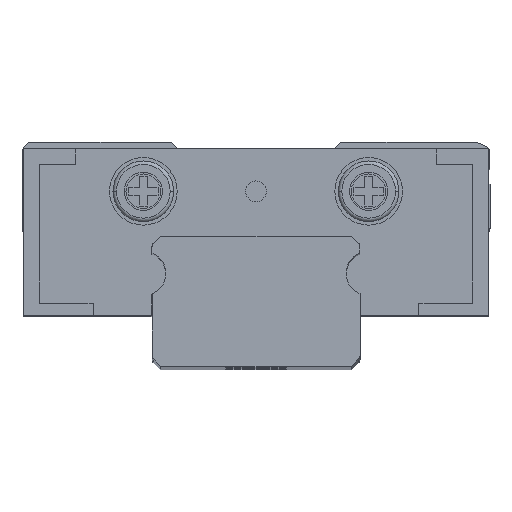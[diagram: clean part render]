
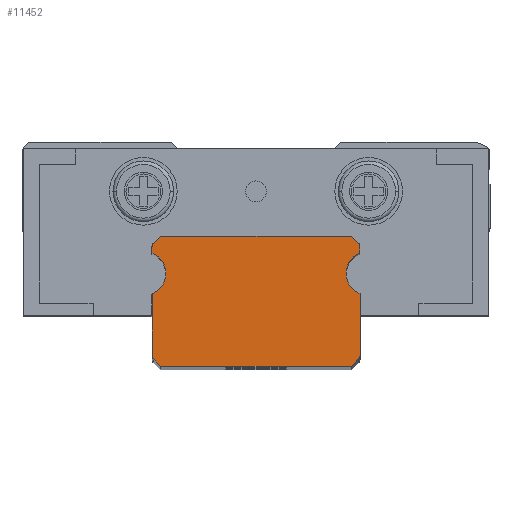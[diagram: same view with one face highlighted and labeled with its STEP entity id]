
A CAD part, top view. The second image highlights one B-rep face of the part: STEP entity #11452.
In plain terms, the highlighted planar face has unit normal (0, 0, 1).
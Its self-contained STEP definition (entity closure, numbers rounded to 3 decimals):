
#16 = DIRECTION ( 'NONE',  ( 0., 1., 0. ) ) ;
#28 = CARTESIAN_POINT ( 'NONE',  ( -6., 6.516, 125. ) ) ;
#76 = VERTEX_POINT ( 'NONE', #142 ) ;
#142 = CARTESIAN_POINT ( 'NONE',  ( 6., 6.516, 125. ) ) ;
#297 = CARTESIAN_POINT ( 'NONE',  ( 5.5, 0., 125. ) ) ;
#335 = CARTESIAN_POINT ( 'NONE',  ( 6., 0.624, 125. ) ) ;
#440 = CARTESIAN_POINT ( 'NONE',  ( 6., 4.184, 125. ) ) ;
#506 = CIRCLE ( 'NONE', #4376, 1.25 ) ;
#549 = LINE ( 'NONE', #704, #3685 ) ;
#651 = EDGE_CURVE ( 'NONE', #8385, #3253, #1044, .T. ) ;
#704 = CARTESIAN_POINT ( 'NONE',  ( -6., 6.876, 125. ) ) ;
#760 = DIRECTION ( 'NONE',  ( 0., 0., 1. ) ) ;
#792 = ORIENTED_EDGE ( 'NONE', *, *, #6316, .F. ) ;
#1009 = LINE ( 'NONE', #9980, #4890 ) ;
#1044 = LINE ( 'NONE', #5384, #4025 ) ;
#1287 = CARTESIAN_POINT ( 'NONE',  ( 5.5, 7.5, 125. ) ) ;
#1381 = CARTESIAN_POINT ( 'NONE',  ( -6., 4.184, 125. ) ) ;
#1427 = CARTESIAN_POINT ( 'NONE',  ( 6., 6.516, 125. ) ) ;
#1523 = ORIENTED_EDGE ( 'NONE', *, *, #7706, .T. ) ;
#1582 = VECTOR ( 'NONE', #4456, 1000. ) ;
#1739 = ORIENTED_EDGE ( 'NONE', *, *, #651, .T. ) ;
#2018 = EDGE_CURVE ( 'NONE', #5233, #3962, #10681, .T. ) ;
#2036 = PLANE ( 'NONE',  #8665 ) ;
#2195 = ORIENTED_EDGE ( 'NONE', *, *, #2216, .T. ) ;
#2216 = EDGE_CURVE ( 'NONE', #3223, #3416, #2346, .T. ) ;
#2344 = DIRECTION ( 'NONE',  ( 0., 0., 1. ) ) ;
#2346 = CIRCLE ( 'NONE', #12033, 0.3 ) ;
#2350 = DIRECTION ( 'NONE',  ( -1., 0., 0. ) ) ;
#2393 = CIRCLE ( 'NONE', #7265, 1.25 ) ;
#2399 = DIRECTION ( 'NONE',  ( 0., 0., 1. ) ) ;
#2405 = ORIENTED_EDGE ( 'NONE', *, *, #11754, .T. ) ;
#2653 = VERTEX_POINT ( 'NONE', #10883 ) ;
#2659 = CARTESIAN_POINT ( 'NONE',  ( -5.7, 0.624, 125. ) ) ;
#2996 = VERTEX_POINT ( 'NONE', #9767 ) ;
#3030 = LINE ( 'NONE', #1287, #10760 ) ;
#3058 = ORIENTED_EDGE ( 'NONE', *, *, #5962, .T. ) ;
#3122 = ORIENTED_EDGE ( 'NONE', *, *, #3310, .T. ) ;
#3219 = CIRCLE ( 'NONE', #9869, 0.3 ) ;
#3223 = VERTEX_POINT ( 'NONE', #3390 ) ;
#3235 = VERTEX_POINT ( 'NONE', #5183 ) ;
#3244 = EDGE_CURVE ( 'NONE', #3713, #5233, #1009, .T. ) ;
#3253 = VERTEX_POINT ( 'NONE', #5299 ) ;
#3310 = EDGE_CURVE ( 'NONE', #76, #3235, #5987, .T. ) ;
#3390 = CARTESIAN_POINT ( 'NONE',  ( -5.912, 7.088, 125. ) ) ;
#3416 = VERTEX_POINT ( 'NONE', #7259 ) ;
#3685 = VECTOR ( 'NONE', #9237, 1000. ) ;
#3713 = VERTEX_POINT ( 'NONE', #297 ) ;
#3796 = FACE_OUTER_BOUND ( 'NONE', #7713, .T. ) ;
#3962 = VERTEX_POINT ( 'NONE', #335 ) ;
#4025 = VECTOR ( 'NONE', #10976, 1000. ) ;
#4029 = LINE ( 'NONE', #5156, #4774 ) ;
#4091 = EDGE_CURVE ( 'NONE', #3416, #10551, #549, .T. ) ;
#4156 = DIRECTION ( 'NONE',  ( -0.707, 0.707, 0. ) ) ;
#4236 = ORIENTED_EDGE ( 'NONE', *, *, #4091, .T. ) ;
#4376 = AXIS2_PLACEMENT_3D ( 'NONE', #7857, #11634, #10828 ) ;
#4456 = DIRECTION ( 'NONE',  ( -0.707, -0.707, 0. ) ) ;
#4774 = VECTOR ( 'NONE', #4156, 1000. ) ;
#4890 = VECTOR ( 'NONE', #5132, 1000. ) ;
#5035 = ORIENTED_EDGE ( 'NONE', *, *, #8557, .F. ) ;
#5036 = VERTEX_POINT ( 'NONE', #9597 ) ;
#5132 = DIRECTION ( 'NONE',  ( 0.707, 0.707, 0. ) ) ;
#5133 = ORIENTED_EDGE ( 'NONE', *, *, #8745, .T. ) ;
#5156 = CARTESIAN_POINT ( 'NONE',  ( 5.912, 7.088, 125. ) ) ;
#5183 = CARTESIAN_POINT ( 'NONE',  ( 6., 6.876, 125. ) ) ;
#5233 = VERTEX_POINT ( 'NONE', #9724 ) ;
#5241 = VECTOR ( 'NONE', #16, 1000. ) ;
#5299 = CARTESIAN_POINT ( 'NONE',  ( -5.5, 0., 125. ) ) ;
#5303 = CARTESIAN_POINT ( 'NONE',  ( -5.912, 0.412, 125. ) ) ;
#5351 = VERTEX_POINT ( 'NONE', #5905 ) ;
#5384 = CARTESIAN_POINT ( 'NONE',  ( -5.912, 0.412, 125. ) ) ;
#5837 = CARTESIAN_POINT ( 'NONE',  ( -5.7, 6.876, 125. ) ) ;
#5869 = ORIENTED_EDGE ( 'NONE', *, *, #3244, .T. ) ;
#5873 = CIRCLE ( 'NONE', #8108, 0.3 ) ;
#5883 = LINE ( 'NONE', #10225, #1582 ) ;
#5905 = CARTESIAN_POINT ( 'NONE',  ( 5.912, 7.088, 125. ) ) ;
#5962 = EDGE_CURVE ( 'NONE', #3235, #5351, #5873, .T. ) ;
#5987 = LINE ( 'NONE', #1427, #9075 ) ;
#6027 = AXIS2_PLACEMENT_3D ( 'NONE', #8106, #2399, #9033 ) ;
#6149 = EDGE_CURVE ( 'NONE', #7892, #7860, #506, .T. ) ;
#6152 = LINE ( 'NONE', #8519, #5241 ) ;
#6193 = ORIENTED_EDGE ( 'NONE', *, *, #6149, .F. ) ;
#6314 = CARTESIAN_POINT ( 'NONE',  ( -6.45, 5.35, 125. ) ) ;
#6316 = EDGE_CURVE ( 'NONE', #7565, #10551, #7378, .T. ) ;
#6467 = CARTESIAN_POINT ( 'NONE',  ( 6.45, 5.35, 125. ) ) ;
#6480 = CARTESIAN_POINT ( 'NONE',  ( 5.2, 5.35, 125. ) ) ;
#6609 = DIRECTION ( 'NONE',  ( 1., 0., 0. ) ) ;
#6762 = CARTESIAN_POINT ( 'NONE',  ( 5.7, 6.876, 125. ) ) ;
#6788 = DIRECTION ( 'NONE',  ( 0., 0., 1. ) ) ;
#6849 = DIRECTION ( 'NONE',  ( 1., 0., 0. ) ) ;
#7228 = CARTESIAN_POINT ( 'NONE',  ( -5.5, 0., 125. ) ) ;
#7259 = CARTESIAN_POINT ( 'NONE',  ( -6., 6.876, 125. ) ) ;
#7265 = AXIS2_PLACEMENT_3D ( 'NONE', #6467, #760, #8639 ) ;
#7303 = DIRECTION ( 'NONE',  ( 0., 1., 0. ) ) ;
#7378 = CIRCLE ( 'NONE', #9935, 1.25 ) ;
#7476 = LINE ( 'NONE', #1381, #12174 ) ;
#7565 = VERTEX_POINT ( 'NONE', #10664 ) ;
#7706 = EDGE_CURVE ( 'NONE', #2996, #2653, #3030, .T. ) ;
#7713 = EDGE_LOOP ( 'NONE', ( #11764, #1523, #10080, #2195, #4236, #792, #7986, #2405, #1739, #8176, #5869, #8411, #5133, #6193, #5035, #3122, #3058 ) ) ;
#7771 = DIRECTION ( 'NONE',  ( 0., 0., 1. ) ) ;
#7833 = EDGE_CURVE ( 'NONE', #3253, #3713, #8228, .T. ) ;
#7857 = CARTESIAN_POINT ( 'NONE',  ( 6.45, 5.35, 125. ) ) ;
#7860 = VERTEX_POINT ( 'NONE', #440 ) ;
#7892 = VERTEX_POINT ( 'NONE', #6480 ) ;
#7986 = ORIENTED_EDGE ( 'NONE', *, *, #9546, .T. ) ;
#8106 = CARTESIAN_POINT ( 'NONE',  ( 5.7, 0.624, 125. ) ) ;
#8108 = AXIS2_PLACEMENT_3D ( 'NONE', #6762, #7771, #6849 ) ;
#8176 = ORIENTED_EDGE ( 'NONE', *, *, #7833, .T. ) ;
#8228 = LINE ( 'NONE', #7228, #12047 ) ;
#8357 = DIRECTION ( 'NONE',  ( 0., 0., 1. ) ) ;
#8363 = DIRECTION ( 'NONE',  ( 0., 0., 1. ) ) ;
#8385 = VERTEX_POINT ( 'NONE', #5303 ) ;
#8411 = ORIENTED_EDGE ( 'NONE', *, *, #2018, .T. ) ;
#8519 = CARTESIAN_POINT ( 'NONE',  ( 6., 0.624, 125. ) ) ;
#8557 = EDGE_CURVE ( 'NONE', #76, #7892, #2393, .T. ) ;
#8639 = DIRECTION ( 'NONE',  ( 1., 0., 0. ) ) ;
#8665 = AXIS2_PLACEMENT_3D ( 'NONE', #5837, #6788, #11416 ) ;
#8745 = EDGE_CURVE ( 'NONE', #3962, #7860, #6152, .T. ) ;
#8975 = DIRECTION ( 'NONE',  ( 1., 0., 0. ) ) ;
#8981 = DIRECTION ( 'NONE',  ( 1., 0., 0. ) ) ;
#9033 = DIRECTION ( 'NONE',  ( 1., 0., 0. ) ) ;
#9075 = VECTOR ( 'NONE', #7303, 1000. ) ;
#9237 = DIRECTION ( 'NONE',  ( 0., -1., 0. ) ) ;
#9285 = DIRECTION ( 'NONE',  ( 1., 0., 0. ) ) ;
#9546 = EDGE_CURVE ( 'NONE', #7565, #5036, #7476, .T. ) ;
#9597 = CARTESIAN_POINT ( 'NONE',  ( -6., 0.624, 125. ) ) ;
#9724 = CARTESIAN_POINT ( 'NONE',  ( 5.912, 0.412, 125. ) ) ;
#9767 = CARTESIAN_POINT ( 'NONE',  ( 5.5, 7.5, 125. ) ) ;
#9869 = AXIS2_PLACEMENT_3D ( 'NONE', #2659, #8357, #6609 ) ;
#9935 = AXIS2_PLACEMENT_3D ( 'NONE', #6314, #2344, #8975 ) ;
#9980 = CARTESIAN_POINT ( 'NONE',  ( 5.5, 0., 125. ) ) ;
#10080 = ORIENTED_EDGE ( 'NONE', *, *, #11574, .T. ) ;
#10122 = EDGE_CURVE ( 'NONE', #5351, #2996, #4029, .T. ) ;
#10225 = CARTESIAN_POINT ( 'NONE',  ( -5.5, 7.5, 125. ) ) ;
#10551 = VERTEX_POINT ( 'NONE', #28 ) ;
#10664 = CARTESIAN_POINT ( 'NONE',  ( -6., 4.184, 125. ) ) ;
#10681 = CIRCLE ( 'NONE', #6027, 0.3 ) ;
#10760 = VECTOR ( 'NONE', #2350, 1000. ) ;
#10828 = DIRECTION ( 'NONE',  ( 1., 0., 0. ) ) ;
#10883 = CARTESIAN_POINT ( 'NONE',  ( -5.5, 7.5, 125. ) ) ;
#10976 = DIRECTION ( 'NONE',  ( 0.707, -0.707, 0. ) ) ;
#11039 = DIRECTION ( 'NONE',  ( 0., -1., 0. ) ) ;
#11169 = CARTESIAN_POINT ( 'NONE',  ( -5.7, 6.876, 125. ) ) ;
#11416 = DIRECTION ( 'NONE',  ( 1., 0., 0. ) ) ;
#11452 = ADVANCED_FACE ( 'NONE', ( #3796 ), #2036, .T. ) ;
#11574 = EDGE_CURVE ( 'NONE', #2653, #3223, #5883, .T. ) ;
#11634 = DIRECTION ( 'NONE',  ( 0., 0., 1. ) ) ;
#11754 = EDGE_CURVE ( 'NONE', #5036, #8385, #3219, .T. ) ;
#11764 = ORIENTED_EDGE ( 'NONE', *, *, #10122, .T. ) ;
#12033 = AXIS2_PLACEMENT_3D ( 'NONE', #11169, #8363, #9285 ) ;
#12047 = VECTOR ( 'NONE', #8981, 1000. ) ;
#12174 = VECTOR ( 'NONE', #11039, 1000. ) ;
